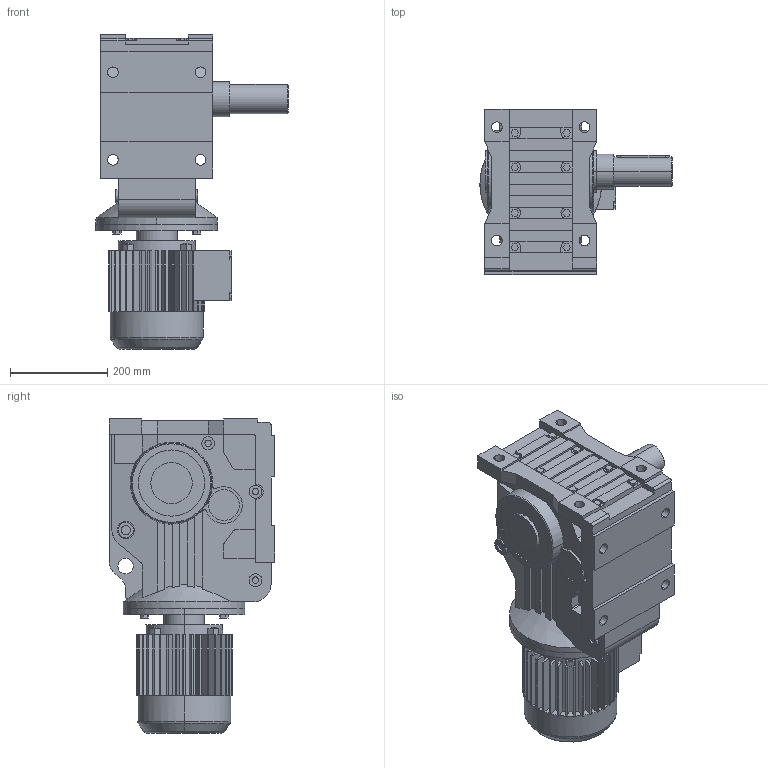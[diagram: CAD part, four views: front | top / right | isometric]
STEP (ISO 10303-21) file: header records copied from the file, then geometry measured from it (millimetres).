
FILE_DESCRIPTION(('Open CASCADE Model'),'2;1');
FILE_NAME('Open CASCADE Shape Model','2021-06-03T11:08:33',('Author'),( 'Open CASCADE'),'Open CASCADE STEP processor 6.3','Open CASCADE 6.3' ,'Unknown');
FILE_SCHEMA(('AUTOMOTIVE_DESIGN_CC2 { 1 2 10303 214 -1 1 5 4 }'));
Length unit declared in the file: millimetre
Products named in the file (4): 1_K87DT90-A; K37‵157_87.step; 萇儂_250-DT90-257-342-197-154.step; す瑩妗陑粣K_87.step
Assembly tree (3 placements, depth 2):
  1_K87DT90-A
    K37‵157_87.step
    萇儂_250-DT90-257-342-197-154.step
    す瑩妗陑粣K_87.step
Bounding box: 395 x 340 x 646 mm (x, y, z)
Volume: 28213638.5 mm3; surface area: 1287202.8 mm2
Topology: 3 solids, 3 shells, 837 faces, 2208 edges, 1434 vertices
Faces by surface type: plane 584, cylinder 231, cone 14, torus 8
Entity records: 58013 total; most frequent: CARTESIAN_POINT 16058, DIRECTION 7229, ORIENTED_EDGE 4412, PCURVE 4412, DEFINITIONAL_REPRESENTATION 4412, LINE 3941, VECTOR 3941, EDGE_CURVE 2206
